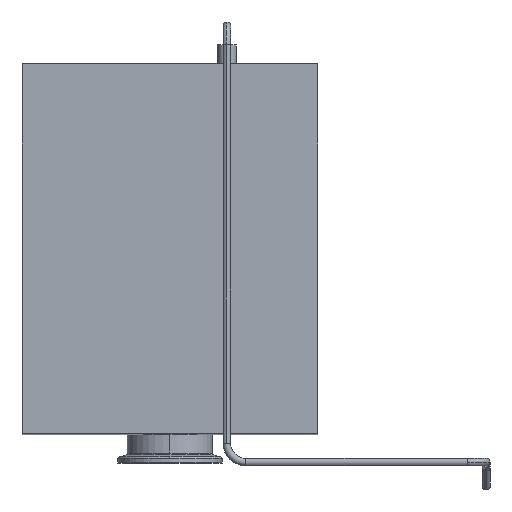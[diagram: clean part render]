
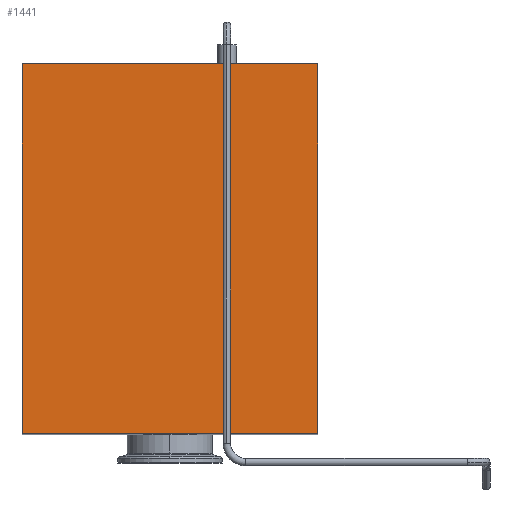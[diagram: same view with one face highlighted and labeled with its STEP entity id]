
A CAD part, top view. The second image highlights one B-rep face of the part: STEP entity #1441.
In plain terms, the highlighted planar face has unit normal (0, 0, 1).
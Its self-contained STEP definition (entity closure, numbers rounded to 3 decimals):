
#52=DIRECTION('',(1.,0.,0.));
#53=VECTOR('',#52,156.);
#54=CARTESIAN_POINT('',(-78.,-70.,0.));
#55=LINE('',#54,#53);
#288=DIRECTION('',(0.,1.,0.));
#289=VECTOR('',#288,195.);
#290=CARTESIAN_POINT('',(78.,-70.,0.));
#291=LINE('',#290,#289);
#408=DIRECTION('',(0.,1.,0.));
#409=VECTOR('',#408,195.);
#410=CARTESIAN_POINT('',(-78.,-70.,0.));
#411=LINE('',#410,#409);
#420=DIRECTION('',(1.,0.,0.));
#421=VECTOR('',#420,156.);
#422=CARTESIAN_POINT('',(-78.,125.,0.));
#423=LINE('',#422,#421);
#834=CARTESIAN_POINT('',(-78.,-70.,0.));
#835=VERTEX_POINT('',#834);
#836=CARTESIAN_POINT('',(78.,-70.,0.));
#837=VERTEX_POINT('',#836);
#842=CARTESIAN_POINT('',(-78.,125.,0.));
#843=CARTESIAN_POINT('',(78.,125.,0.));
#844=VERTEX_POINT('',#842);
#845=VERTEX_POINT('',#843);
#1429=CARTESIAN_POINT('',(-78.,-70.,0.));
#1430=DIRECTION('',(0.,0.,1.));
#1431=DIRECTION('',(1.,0.,0.));
#1432=AXIS2_PLACEMENT_3D('',#1429,#1430,#1431);
#1433=PLANE('',#1432);
#1434=ORIENTED_EDGE('',*,*,#1071,.F.);
#1435=ORIENTED_EDGE('',*,*,#1245,.T.);
#1437=ORIENTED_EDGE('',*,*,#1436,.T.);
#1438=ORIENTED_EDGE('',*,*,#1289,.F.);
#1439=EDGE_LOOP('',(#1434,#1435,#1437,#1438));
#1440=FACE_OUTER_BOUND('',#1439,.F.);
#1441=ADVANCED_FACE('',(#1440),#1433,.T.);
#1071=EDGE_CURVE('',#835,#837,#55,.T.);
#1245=EDGE_CURVE('',#835,#844,#411,.T.);
#1289=EDGE_CURVE('',#837,#845,#291,.T.);
#1436=EDGE_CURVE('',#844,#845,#423,.T.);
